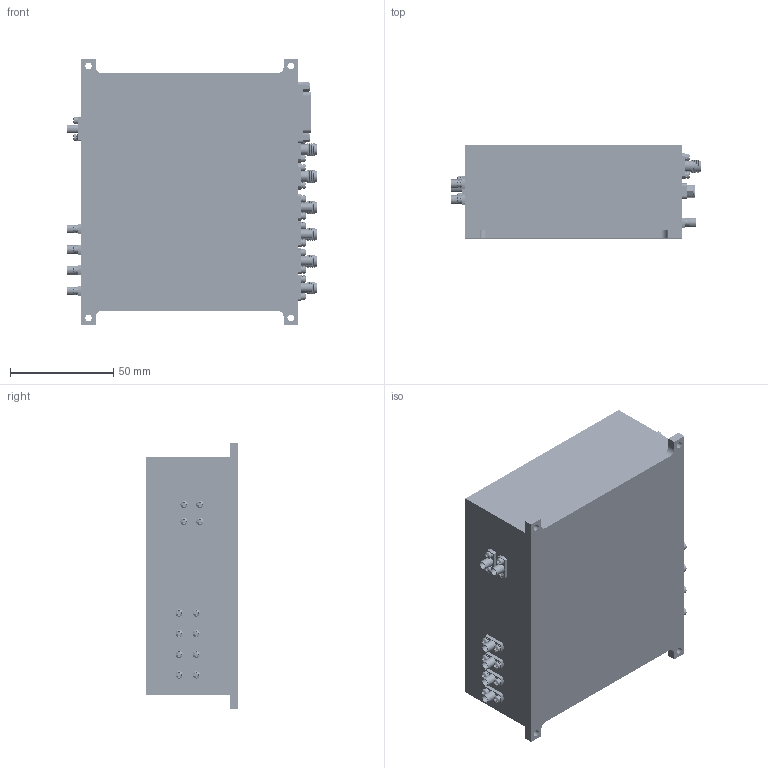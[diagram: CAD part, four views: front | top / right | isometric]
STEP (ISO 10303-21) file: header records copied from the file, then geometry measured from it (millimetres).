
FILE_DESCRIPTION (( 'STEP AP214' ), '1' );
FILE_NAME ('2楷4彶耀輸.STEP', '2026-09-05T08:33:10', ( 'China' ), ( 'Microsoft' ), 'SwSTEP 2.0', 'SolidWorks 2024', '' );
FILE_SCHEMA (( 'AUTOMOTIVE_DESIGN' ));
Length unit declared in the file: millimetre
Products named in the file (8): SMP-JFD2_1; GB9074.4十字槽盘头组合螺钉304不锈钢M2X5; GB819十字槽沉头螺钉304不锈钢M1.6X4; 2发4收模块; 南京宁悦NYSAFT11F01连接器; 2发4收盖板; 2发4收壳体; 贵州振华J30J-25ZK
Assembly tree (79 placements, depth 2):
  2发4收模块
    2发4收壳体
    2发4收盖板
    SMP-JFD2_1  x10
    南京宁悦NYSAFT11F01连接器  x6
    GB819十字槽沉头螺钉304不锈钢M1.6X4  x16
    GB9074.4十字槽盘头组合螺钉304不锈钢M2X5  x44
    贵州振华J30J-25ZK
Bounding box: 121.3 x 45 x 129 mm (x, y, z)
Volume: 545505 mm3; surface area: 86392.1 mm2
Topology: 79 solids, 79 shells, 5707 faces, 15228 edges, 9956 vertices
Faces by surface type: cylinder 3030, plane 2015, bspline 330, cone 244, torus 88
Entity records: 33816 total; most frequent: CARTESIAN_POINT 10750, DIRECTION 4903, ORIENTED_EDGE 4504, EDGE_CURVE 2252, AXIS2_PLACEMENT_3D 1875, VERTEX_POINT 1455, EDGE_LOOP 1183, VECTOR 1153
